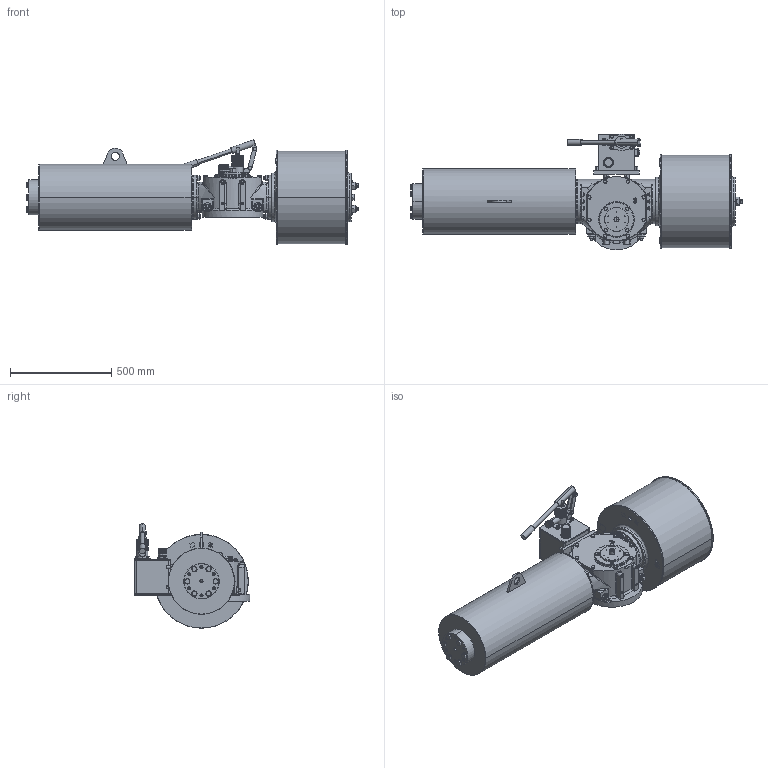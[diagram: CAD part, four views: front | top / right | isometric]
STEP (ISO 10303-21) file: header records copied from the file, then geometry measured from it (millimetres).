
FILE_DESCRIPTION (( 'STEP AP203' ), '1' );
FILE_NAME ('VTS3-450-SR-MH-FO.STEP', '2023-01-01T09:04:44', ( '' ), ( '' ), 'SwSTEP 2.0', 'SolidWorks 2020', '' );
FILE_SCHEMA (( 'CONFIG_CONTROL_DESIGN' ));
Length unit declared in the file: millimetre
Products named in the file (1): VTS3-450-SR-MH-FO
Bounding box: 1640.38 x 571.72 x 516.27 mm (x, y, z)
Volume: 147218884.3 mm3; surface area: 3413542.9 mm2
Topology: 66 solids, 69 shells, 2829 faces, 6999 edges, 4416 vertices
Faces by surface type: plane 1148, cylinder 934, cone 576, bspline 143, torus 28
Entity records: 99369 total; most frequent: CARTESIAN_POINT 32957, DIRECTION 13925, ORIENTED_EDGE 13816, EDGE_CURVE 6908, AXIS2_PLACEMENT_3D 5466, VERTEX_POINT 4416, EDGE_LOOP 3184, VECTOR 2993
